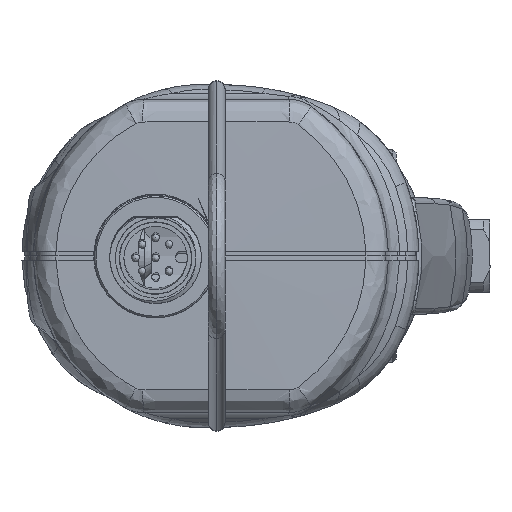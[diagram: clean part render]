
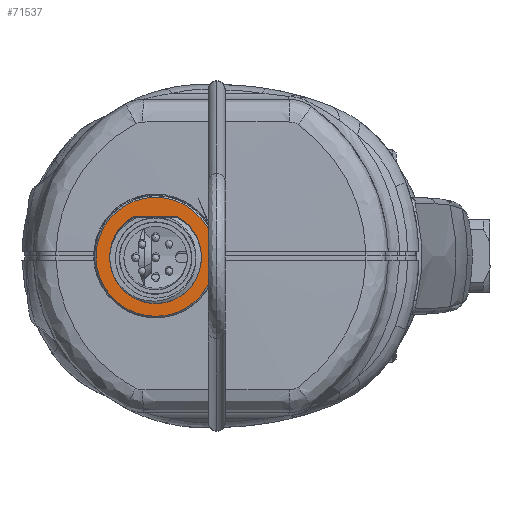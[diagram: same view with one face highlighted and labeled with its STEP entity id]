
A CAD part, front view. The second image highlights one B-rep face of the part: STEP entity #71537.
In plain terms, the highlighted planar face has unit normal (0, -1, -0.018).
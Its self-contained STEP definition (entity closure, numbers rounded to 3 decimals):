
#145 = DIRECTION ( 'NONE',  ( 1., 0., 0.002 ) ) ;
#296 = CARTESIAN_POINT ( 'NONE',  ( -37.749, -178.332, 5.142 ) ) ;
#958 = DIRECTION ( 'NONE',  ( 0., 1., 0.017 ) ) ;
#2148 = CARTESIAN_POINT ( 'NONE',  ( -29.76, -178.241, -0.086 ) ) ;
#2993 = CARTESIAN_POINT ( 'NONE',  ( -33.304, -178.332, 5.152 ) ) ;
#5156 = CARTESIAN_POINT ( 'NONE',  ( -42.81, -178.24, -0.116 ) ) ;
#6865 = CARTESIAN_POINT ( 'NONE',  ( -37.56, -178.24, -0.104 ) ) ;
#9237 = CIRCLE ( 'NONE', #77277, 5.25 ) ;
#12128 = CIRCLE ( 'NONE', #56210, 7.8 ) ;
#12271 = DIRECTION ( 'NONE',  ( 1., 0., 0.002 ) ) ;
#13561 = ORIENTED_EDGE ( 'NONE', *, *, #49425, .T. ) ;
#18669 = EDGE_CURVE ( 'NONE', #64789, #67826, #38469, .T. ) ;
#20587 = EDGE_LOOP ( 'NONE', ( #68321, #60154, #61963, #22531 ) ) ;
#22531 = ORIENTED_EDGE ( 'NONE', *, *, #51266, .T. ) ;
#24490 = PLANE ( 'NONE',  #55349 ) ;
#27133 = EDGE_CURVE ( 'NONE', #58671, #64789, #9237, .T. ) ;
#33544 = AXIS2_PLACEMENT_3D ( 'NONE', #82465, #42379, #12271 ) ;
#35696 = VECTOR ( 'NONE', #68181, 1000. ) ;
#37364 = DIRECTION ( 'NONE',  ( 0., -1., -0.017 ) ) ;
#38469 = CIRCLE ( 'NONE', #49140, 5.25 ) ;
#40174 = EDGE_CURVE ( 'NONE', #58671, #51582, #67355, .T. ) ;
#40403 = CARTESIAN_POINT ( 'NONE',  ( -37.56, -178.24, -0.104 ) ) ;
#42379 = DIRECTION ( 'NONE',  ( 0., 1., 0.017 ) ) ;
#43236 = CARTESIAN_POINT ( 'NONE',  ( -37.56, -178.24, -0.104 ) ) ;
#44309 = AXIS2_PLACEMENT_3D ( 'NONE', #40403, #59221, #58401 ) ;
#47174 = ORIENTED_EDGE ( 'NONE', *, *, #51677, .T. ) ;
#49140 = AXIS2_PLACEMENT_3D ( 'NONE', #6865, #958, #145 ) ;
#49425 = EDGE_CURVE ( 'NONE', #79551, #80534, #12128, .T. ) ;
#49954 = DIRECTION ( 'NONE',  ( -1., 0., -0.002 ) ) ;
#51266 = EDGE_CURVE ( 'NONE', #67826, #51582, #68294, .T. ) ;
#51582 = VERTEX_POINT ( 'NONE', #296 ) ;
#51677 = EDGE_CURVE ( 'NONE', #80534, #79551, #67033, .T. ) ;
#51878 = CARTESIAN_POINT ( 'NONE',  ( -37.396, -178.332, 5.143 ) ) ;
#55349 = AXIS2_PLACEMENT_3D ( 'NONE', #56655, #69986, #49954 ) ;
#56210 = AXIS2_PLACEMENT_3D ( 'NONE', #43236, #37364, #61219 ) ;
#56655 = CARTESIAN_POINT ( 'NONE',  ( -37.56, -178.24, -0.104 ) ) ;
#56739 = DIRECTION ( 'NONE',  ( 1., 0., 0.002 ) ) ;
#58401 = DIRECTION ( 'NONE',  ( -1., 0., -0.002 ) ) ;
#58671 = VERTEX_POINT ( 'NONE', #51878 ) ;
#59221 = DIRECTION ( 'NONE',  ( 0., -1., -0.017 ) ) ;
#60154 = ORIENTED_EDGE ( 'NONE', *, *, #27133, .T. ) ;
#61219 = DIRECTION ( 'NONE',  ( -1., 0., -0.002 ) ) ;
#61963 = ORIENTED_EDGE ( 'NONE', *, *, #18669, .T. ) ;
#62993 = CARTESIAN_POINT ( 'NONE',  ( -37.56, -178.24, -0.104 ) ) ;
#64789 = VERTEX_POINT ( 'NONE', #72030 ) ;
#67033 = CIRCLE ( 'NONE', #44309, 7.8 ) ;
#67355 = LINE ( 'NONE', #2993, #35696 ) ;
#67826 = VERTEX_POINT ( 'NONE', #5156 ) ;
#68181 = DIRECTION ( 'NONE',  ( -1., 0., -0.002 ) ) ;
#68244 = EDGE_LOOP ( 'NONE', ( #47174, #13561 ) ) ;
#68294 = CIRCLE ( 'NONE', #33544, 5.25 ) ;
#68321 = ORIENTED_EDGE ( 'NONE', *, *, #40174, .F. ) ;
#68855 = DIRECTION ( 'NONE',  ( 0., 1., 0.017 ) ) ;
#69986 = DIRECTION ( 'NONE',  ( 0., -1., -0.017 ) ) ;
#71537 = ADVANCED_FACE ( 'NONE', ( #75025, #75863 ), #24490, .T. ) ;
#72030 = CARTESIAN_POINT ( 'NONE',  ( -32.31, -178.24, -0.092 ) ) ;
#74914 = CARTESIAN_POINT ( 'NONE',  ( -45.36, -178.24, -0.122 ) ) ;
#75025 = FACE_OUTER_BOUND ( 'NONE', #68244, .T. ) ;
#75863 = FACE_BOUND ( 'NONE', #20587, .T. ) ;
#77277 = AXIS2_PLACEMENT_3D ( 'NONE', #62993, #68855, #56739 ) ;
#79551 = VERTEX_POINT ( 'NONE', #74914 ) ;
#80534 = VERTEX_POINT ( 'NONE', #2148 ) ;
#82465 = CARTESIAN_POINT ( 'NONE',  ( -37.56, -178.24, -0.104 ) ) ;
